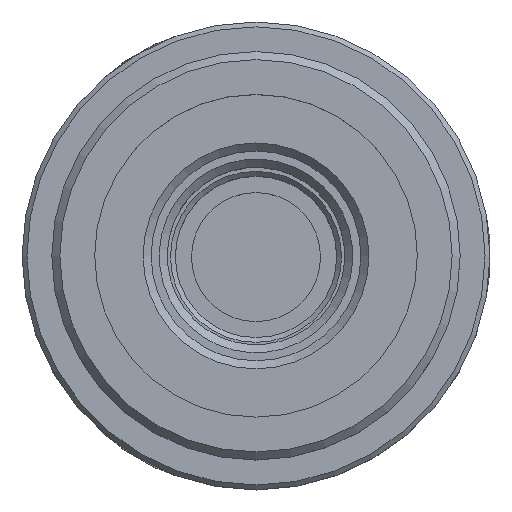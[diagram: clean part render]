
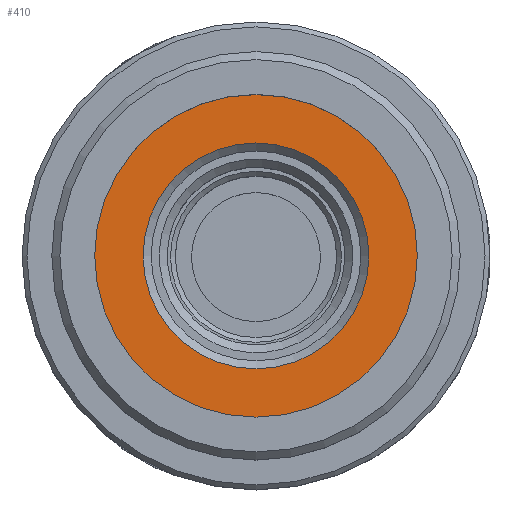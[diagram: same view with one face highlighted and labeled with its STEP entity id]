
A CAD part, top view. The second image highlights one B-rep face of the part: STEP entity #410.
In plain terms, the highlighted planar face has unit normal (0, 0, 1).
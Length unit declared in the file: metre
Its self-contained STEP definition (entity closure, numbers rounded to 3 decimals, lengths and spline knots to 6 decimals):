
#410=ADVANCED_FACE('3:2304',(#883,#884),#885,.F.);
#883=FACE_BOUND('',#1473,.T.);
#884=FACE_OUTER_BOUND('',#1474,.T.);
#885=PLANE('',#1475);
#1473=EDGE_LOOP('',(#2400));
#1474=EDGE_LOOP('',(#2401));
#1475=AXIS2_PLACEMENT_3D('',#2402,#2403,#2404);
#2400=ORIENTED_EDGE('',*,*,#2826,.T.);
#2401=ORIENTED_EDGE('',*,*,#2828,.F.);
#2402=CARTESIAN_POINT('',(-0.013422,-0.001395,0.02407));
#2403=DIRECTION('',(0.,0.0,-1.0));
#2404=DIRECTION('',(-1.0,0.0,0.));
#2826=EDGE_CURVE('3:2775',#3347,#3347,#3348,.T.);
#2828=EDGE_CURVE('3:2802',#3350,#3350,#3351,.T.);
#3347=VERTEX_POINT('',#4330);
#3348=CIRCLE('',#4331,0.007);
#3350=VERTEX_POINT('',#4333);
#3351=CIRCLE('',#4334,0.01);
#4330=CARTESIAN_POINT('',(-0.003422,-0.008395,0.02407));
#4331=AXIS2_PLACEMENT_3D('',#4728,#4729,#4730);
#4333=CARTESIAN_POINT('',(-0.003422,-0.011395,0.02407));
#4334=AXIS2_PLACEMENT_3D('',#4731,#4732,#4733);
#4728=CARTESIAN_POINT('',(-0.003422,-0.001395,0.02407));
#4729=DIRECTION('',(0.,0.0,-1.0));
#4730=DIRECTION('',(0.,-1.0,0.));
#4731=CARTESIAN_POINT('',(-0.003422,-0.001395,0.02407));
#4732=DIRECTION('',(0.,0.,-1.0));
#4733=DIRECTION('',(0.,-1.0,0.));
